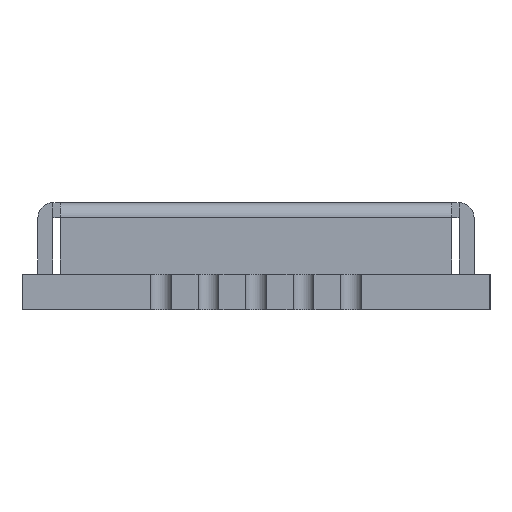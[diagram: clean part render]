
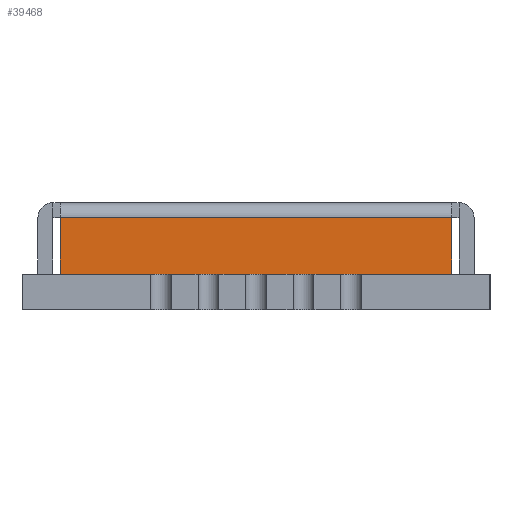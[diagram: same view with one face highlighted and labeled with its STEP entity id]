
A CAD part, left-side view. The second image highlights one B-rep face of the part: STEP entity #39468.
In plain terms, the highlighted planar face has unit normal (-1, 0, 0).
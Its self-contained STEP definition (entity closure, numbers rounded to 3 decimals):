
#39298 = VERTEX_POINT('',#39299);
#39299 = CARTESIAN_POINT('',(0.45,1.025,1.509));
#39306 = EDGE_CURVE('',#39307,#39298,#39309,.T.);
#39307 = VERTEX_POINT('',#39308);
#39308 = CARTESIAN_POINT('',(0.45,1.025,0.));
#39309 = LINE('',#39310,#39311);
#39310 = CARTESIAN_POINT('',(0.45,1.025,0.955));
#39311 = VECTOR('',#39312,1.);
#39312 = DIRECTION('',(0.,0.,1.));
#39403 = VERTEX_POINT('',#39404);
#39404 = CARTESIAN_POINT('',(0.45,11.475,1.509));
#39421 = VERTEX_POINT('',#39422);
#39422 = CARTESIAN_POINT('',(0.45,11.475,0.));
#39428 = EDGE_CURVE('',#39403,#39421,#39429,.T.);
#39429 = LINE('',#39430,#39431);
#39430 = CARTESIAN_POINT('',(0.45,11.475,0.955));
#39431 = VECTOR('',#39432,1.);
#39432 = DIRECTION('',(0.,0.,-1.));
#39458 = EDGE_CURVE('',#39403,#39298,#39459,.T.);
#39459 = LINE('',#39460,#39461);
#39460 = CARTESIAN_POINT('',(0.45,9.163,1.509));
#39461 = VECTOR('',#39462,1.);
#39462 = DIRECTION('',(0.,-1.,0.));
#39468 = ADVANCED_FACE('',(#39469),#39480,.T.);
#39469 = FACE_BOUND('',#39470,.T.);
#39470 = EDGE_LOOP('',(#39471,#39472,#39473,#39474));
#39471 = ORIENTED_EDGE('',*,*,#39306,.T.);
#39472 = ORIENTED_EDGE('',*,*,#39458,.F.);
#39473 = ORIENTED_EDGE('',*,*,#39428,.T.);
#39474 = ORIENTED_EDGE('',*,*,#39475,.T.);
#39475 = EDGE_CURVE('',#39421,#39307,#39476,.T.);
#39476 = LINE('',#39477,#39478);
#39477 = CARTESIAN_POINT('',(0.45,12.075,0.));
#39478 = VECTOR('',#39479,1.);
#39479 = DIRECTION('',(0.,-1.,0.));
#39480 = PLANE('',#39481);
#39481 = AXIS2_PLACEMENT_3D('',#39482,#39483,#39484);
#39482 = CARTESIAN_POINT('',(0.45,12.075,0.));
#39483 = DIRECTION('',(-1.,0.,0.));
#39484 = DIRECTION('',(0.,-1.,0.));
